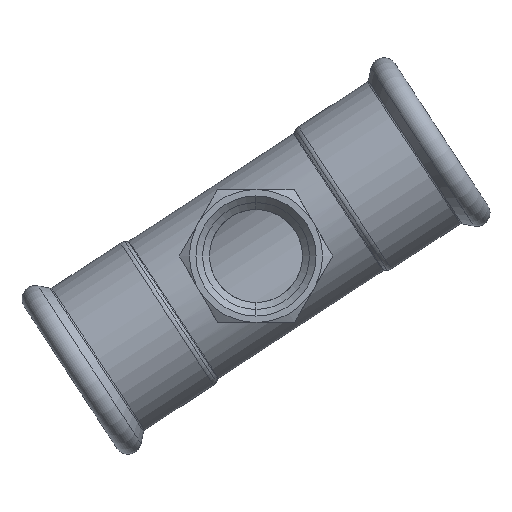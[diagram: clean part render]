
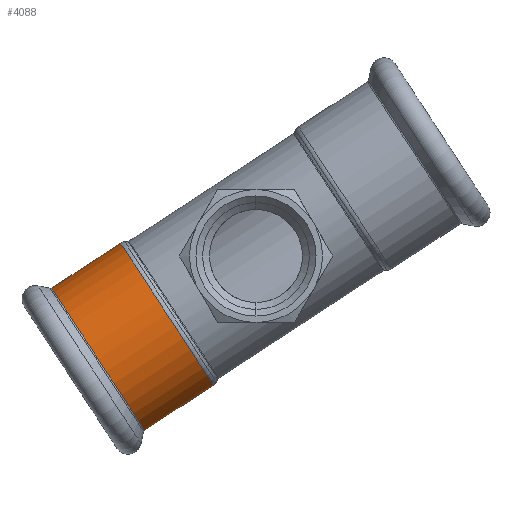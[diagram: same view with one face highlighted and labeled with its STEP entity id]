
A CAD part, front view. The second image highlights one B-rep face of the part: STEP entity #4088.
In plain terms, the highlighted cylindrical face has radius 19.15 mm (diameter 38.3 mm), a partial arc.
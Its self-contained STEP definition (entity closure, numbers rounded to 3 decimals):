
#36 = DIRECTION ( 'NONE',  ( -1., 0., 0. ) ) ;
#109 = DIRECTION ( 'NONE',  ( 0., 0., 1. ) ) ;
#187 = AXIS2_PLACEMENT_3D ( 'NONE', #984, #1947, #3929 ) ;
#341 = ORIENTED_EDGE ( 'NONE', *, *, #842, .F. ) ;
#342 = AXIS2_PLACEMENT_3D ( 'NONE', #1548, #2143, #2461 ) ;
#428 = VERTEX_POINT ( 'NONE', #3294 ) ;
#842 = EDGE_CURVE ( 'NONE', #3864, #3447, #4082, .T. ) ;
#914 = ORIENTED_EDGE ( 'NONE', *, *, #2047, .F. ) ;
#965 = CYLINDRICAL_SURFACE ( 'NONE', #187, 19.15 ) ;
#984 = CARTESIAN_POINT ( 'NONE',  ( 27.146, 0., 0. ) ) ;
#1036 = CARTESIAN_POINT ( 'NONE',  ( 24., 0., 0. ) ) ;
#1548 = CARTESIAN_POINT ( 'NONE',  ( 42.55, 0., 0. ) ) ;
#1629 = CIRCLE ( 'NONE', #342, 19.15 ) ;
#1692 = DIRECTION ( 'NONE',  ( -1., 0., 0. ) ) ;
#1703 = EDGE_CURVE ( 'NONE', #2118, #428, #3355, .T. ) ;
#1764 = AXIS2_PLACEMENT_3D ( 'NONE', #1036, #1692, #109 ) ;
#1784 = EDGE_LOOP ( 'NONE', ( #2990, #2722, #914, #341 ) ) ;
#1947 = DIRECTION ( 'NONE',  ( -1., 0., 0. ) ) ;
#2047 = EDGE_CURVE ( 'NONE', #3447, #428, #3558, .T. ) ;
#2118 = VERTEX_POINT ( 'NONE', #2818 ) ;
#2143 = DIRECTION ( 'NONE',  ( -1., 0., 0. ) ) ;
#2147 = EDGE_CURVE ( 'NONE', #3864, #2118, #1629, .T. ) ;
#2165 = CARTESIAN_POINT ( 'NONE',  ( 42.55, 0., 19.15 ) ) ;
#2461 = DIRECTION ( 'NONE',  ( 0., 0., 1. ) ) ;
#2475 = CARTESIAN_POINT ( 'NONE',  ( 27.146, 0., 19.15 ) ) ;
#2722 = ORIENTED_EDGE ( 'NONE', *, *, #1703, .T. ) ;
#2818 = CARTESIAN_POINT ( 'NONE',  ( 42.55, 0., -19.15 ) ) ;
#2990 = ORIENTED_EDGE ( 'NONE', *, *, #2147, .T. ) ;
#3069 = CARTESIAN_POINT ( 'NONE',  ( 24., 0., 19.15 ) ) ;
#3198 = VECTOR ( 'NONE', #3733, 1000. ) ;
#3294 = CARTESIAN_POINT ( 'NONE',  ( 24., 0., -19.15 ) ) ;
#3355 = LINE ( 'NONE', #3587, #3711 ) ;
#3447 = VERTEX_POINT ( 'NONE', #3069 ) ;
#3558 = CIRCLE ( 'NONE', #1764, 19.15 ) ;
#3587 = CARTESIAN_POINT ( 'NONE',  ( 27.146, 0., -19.15 ) ) ;
#3711 = VECTOR ( 'NONE', #36, 1000. ) ;
#3733 = DIRECTION ( 'NONE',  ( -1., 0., 0. ) ) ;
#3864 = VERTEX_POINT ( 'NONE', #2165 ) ;
#3929 = DIRECTION ( 'NONE',  ( 0., 0., 1. ) ) ;
#4006 = FACE_OUTER_BOUND ( 'NONE', #1784, .T. ) ;
#4082 = LINE ( 'NONE', #2475, #3198 ) ;
#4088 = ADVANCED_FACE ( 'NONE', ( #4006 ), #965, .T. ) ;
